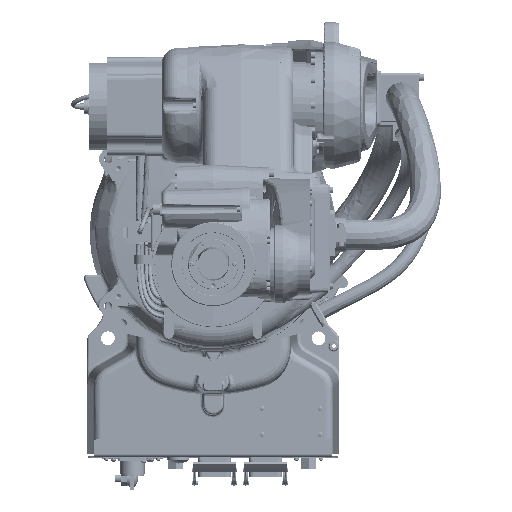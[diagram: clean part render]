
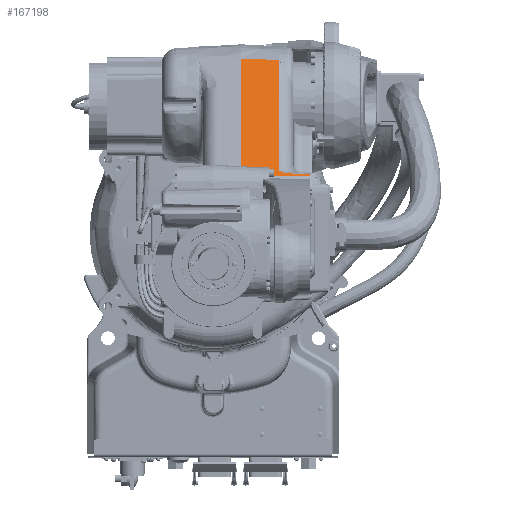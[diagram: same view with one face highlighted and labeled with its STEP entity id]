
A CAD part, top view. The second image highlights one B-rep face of the part: STEP entity #167198.
In plain terms, the highlighted planar face has unit normal (0.052, 0.765, 0.642).
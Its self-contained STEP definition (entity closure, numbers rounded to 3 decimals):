
#162667=CARTESIAN_POINT('Vertex',(36.,-91.328,233.298)) ;
#162708=CARTESIAN_POINT('Vertex',(127.157,-93.556,228.521)) ;
#162711=CARTESIAN_POINT('Line Origine',(92.972,-92.72,230.313)) ;
#163068=CARTESIAN_POINT('Line Origine',(36.,-15.022,142.361)) ;
#163072=CARTESIAN_POINT('Vertex',(36.,61.284,51.423)) ;
#167137=CARTESIAN_POINT('Axis2P3D Location',(36.,61.284,51.423)) ;
#167142=CARTESIAN_POINT('Line Origine',(127.157,-18.682,139.29)) ;
#167146=CARTESIAN_POINT('Vertex',(127.157,-90.946,225.41)) ;
#167150=CARTESIAN_POINT('Control Point',(99.906,-89.517,225.93)) ;
#167151=CARTESIAN_POINT('Control Point',(127.157,-90.946,225.41)) ;
#167152=CARTESIAN_POINT('Vertex',(99.906,-89.517,225.93)) ;
#167156=CARTESIAN_POINT('Control Point',(99.906,-89.517,225.93)) ;
#167157=CARTESIAN_POINT('Control Point',(98.588,-89.448,225.955)) ;
#167158=CARTESIAN_POINT('Control Point',(97.295,-89.321,225.909)) ;
#167159=CARTESIAN_POINT('Control Point',(96.039,-89.137,225.792)) ;
#167160=CARTESIAN_POINT('Control Point',(93.72,-88.682,225.439)) ;
#167161=CARTESIAN_POINT('Control Point',(91.623,-88.058,224.866)) ;
#167162=CARTESIAN_POINT('Control Point',(90.676,-87.724,224.546)) ;
#167163=CARTESIAN_POINT('Control Point',(89.428,-87.213,224.038)) ;
#167164=CARTESIAN_POINT('Control Point',(88.315,-86.661,223.471)) ;
#167165=CARTESIAN_POINT('Control Point',(87.999,-86.495,223.3)) ;
#167166=CARTESIAN_POINT('Control Point',(87.488,-86.213,223.005)) ;
#167167=CARTESIAN_POINT('Control Point',(87.009,-85.925,222.7)) ;
#167168=CARTESIAN_POINT('Control Point',(86.821,-85.807,222.575)) ;
#167169=CARTESIAN_POINT('Control Point',(86.55,-85.633,222.389)) ;
#167170=CARTESIAN_POINT('Control Point',(86.291,-85.457,222.201)) ;
#167171=CARTESIAN_POINT('Control Point',(86.209,-85.4,222.14)) ;
#167172=CARTESIAN_POINT('Control Point',(86.128,-85.343,222.079)) ;
#167173=CARTESIAN_POINT('Control Point',(86.047,-85.286,222.018)) ;
#167174=CARTESIAN_POINT('Vertex',(86.047,-85.286,222.018)) ;
#167177=CARTESIAN_POINT('Line Origine',(86.047,-17.031,140.675)) ;
#167181=CARTESIAN_POINT('Vertex',(86.047,59.274,49.737)) ;
#167184=CARTESIAN_POINT('Line Origine',(81.579,59.454,49.888)) ;
#162712=DIRECTION('Vector Direction',(0.998,-0.024,-0.052)) ;
#163069=DIRECTION('Vector Direction',(0.,-0.643,0.766)) ;
#167138=DIRECTION('Axis2P3D Direction',(-0.052,-0.765,-0.642)) ;
#167139=DIRECTION('Axis2P3D XDirection',(0.,-0.643,0.766)) ;
#167143=DIRECTION('Vector Direction',(0.,-0.643,0.766)) ;
#167178=DIRECTION('Vector Direction',(0.,-0.643,0.766)) ;
#167185=DIRECTION('Vector Direction',(-0.999,0.04,0.034)) ;
#167140=AXIS2_PLACEMENT_3D('Plane Axis2P3D',#167137,#167138,#167139) ;
#167190=ORIENTED_EDGE('',*,*,#167148,.F.) ;
#167191=ORIENTED_EDGE('',*,*,#167154,.F.) ;
#167192=ORIENTED_EDGE('',*,*,#167176,.F.) ;
#167193=ORIENTED_EDGE('',*,*,#167183,.F.) ;
#167194=ORIENTED_EDGE('',*,*,#167188,.T.) ;
#167195=ORIENTED_EDGE('',*,*,#163074,.F.) ;
#167196=ORIENTED_EDGE('',*,*,#162715,.F.) ;
#162713=VECTOR('Line Direction',#162712,1.) ;
#163070=VECTOR('Line Direction',#163069,1.) ;
#167144=VECTOR('Line Direction',#167143,1.) ;
#167179=VECTOR('Line Direction',#167178,1.) ;
#167186=VECTOR('Line Direction',#167185,1.) ;
#167198=ADVANCED_FACE('J3',(#167197),#167141,.F.) ;
#167149=B_SPLINE_CURVE_WITH_KNOTS('',1,(#167150,#167151),.UNSPECIFIED.,.F.,.U.,(2,2),(16.932,44.226),.UNSPECIFIED.) ;
#167155=B_SPLINE_CURVE_WITH_KNOTS('',5,(#167156,#167157,#167158,#167159,#167160,#167161,#167162,#167163,#167164,#167165,#167166,#167167,#167168,#167169,#167170,#167171,#167172,#167173),.UNSPECIFIED.,.F.,.U.,(6,3,3,3,3,6),(0.,9.779,18.791,22.55,25.103,26.308),.UNSPECIFIED.) ;
#162715=EDGE_CURVE('',#162709,#162668,#162714,.F.) ;
#163074=EDGE_CURVE('',#162668,#163073,#163071,.F.) ;
#167148=EDGE_CURVE('',#167147,#162709,#167145,.T.) ;
#167154=EDGE_CURVE('',#167153,#167147,#167149,.T.) ;
#167176=EDGE_CURVE('',#167175,#167153,#167155,.F.) ;
#167183=EDGE_CURVE('',#167182,#167175,#167180,.T.) ;
#167188=EDGE_CURVE('',#167182,#163073,#167187,.T.) ;
#167189=EDGE_LOOP('',(#167190,#167191,#167192,#167193,#167194,#167195,#167196)) ;
#167197=FACE_OUTER_BOUND('',#167189,.T.) ;
#162714=LINE('Line',#162711,#162713) ;
#163071=LINE('Line',#163068,#163070) ;
#167145=LINE('Line',#167142,#167144) ;
#167180=LINE('Line',#167177,#167179) ;
#167187=LINE('Line',#167184,#167186) ;
#167141=PLANE('',#167140) ;
#162668=VERTEX_POINT('',#162667) ;
#162709=VERTEX_POINT('',#162708) ;
#163073=VERTEX_POINT('',#163072) ;
#167147=VERTEX_POINT('',#167146) ;
#167153=VERTEX_POINT('',#167152) ;
#167175=VERTEX_POINT('',#167174) ;
#167182=VERTEX_POINT('',#167181) ;
